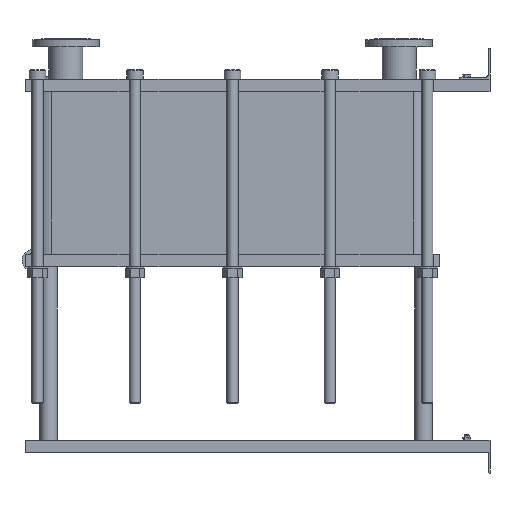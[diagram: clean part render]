
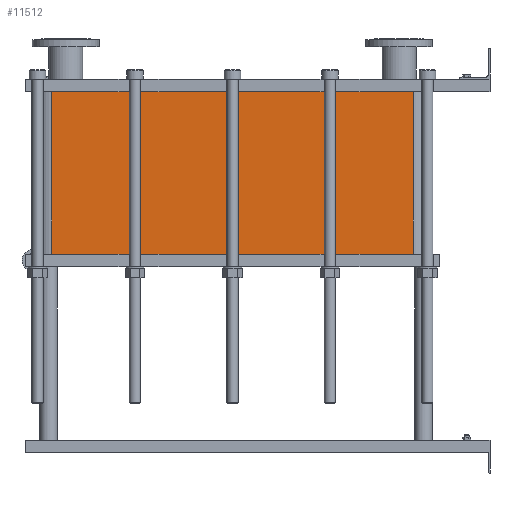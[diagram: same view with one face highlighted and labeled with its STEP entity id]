
A CAD part, left-side view. The second image highlights one B-rep face of the part: STEP entity #11512.
In plain terms, the highlighted planar face has unit normal (-1, 0, 0).
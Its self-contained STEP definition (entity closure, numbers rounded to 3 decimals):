
#1129=LINE('',#23232,#2102);
#1130=LINE('',#23236,#2103);
#1131=LINE('',#23238,#2104);
#1132=LINE('',#23239,#2105);
#2102=VECTOR('',#15887,10.);
#2103=VECTOR('',#15892,10.);
#2104=VECTOR('',#15893,10.);
#2105=VECTOR('',#15894,10.);
#3267=FACE_OUTER_BOUND('',#4093,.T.);
#4093=EDGE_LOOP('',(#10103,#10104,#10105,#10106));
#5642=VERTEX_POINT('',#23229);
#5643=VERTEX_POINT('',#23231);
#5644=VERTEX_POINT('',#23235);
#5645=VERTEX_POINT('',#23237);
#7159=EDGE_CURVE('',#5643,#5642,#1129,.T.);
#7161=EDGE_CURVE('',#5642,#5644,#1130,.T.);
#7162=EDGE_CURVE('',#5645,#5644,#1131,.T.);
#7163=EDGE_CURVE('',#5645,#5643,#1132,.T.);
#10103=ORIENTED_EDGE('',*,*,#7161,.T.);
#10104=ORIENTED_EDGE('',*,*,#7162,.F.);
#10105=ORIENTED_EDGE('',*,*,#7163,.T.);
#10106=ORIENTED_EDGE('',*,*,#7159,.T.);
#10857=PLANE('',#12751);
#11512=ADVANCED_FACE('',(#3267),#10857,.T.);
#12751=AXIS2_PLACEMENT_3D('',#23234,#15890,#15891);
#15887=DIRECTION('',(0.,0.,-1.));
#15890=DIRECTION('center_axis',(-1.,0.,0.));
#15891=DIRECTION('ref_axis',(0.,1.,0.));
#15892=DIRECTION('',(0.,-1.,0.));
#15893=DIRECTION('',(0.,0.,-1.));
#15894=DIRECTION('',(0.,1.,0.));
#23229=CARTESIAN_POINT('',(-200.,1414.,-524.4));
#23231=CARTESIAN_POINT('',(-200.,1414.,0.));
#23232=CARTESIAN_POINT('',(-200.,1414.,0.));
#23234=CARTESIAN_POINT('Origin',(-200.,248.,0.));
#23235=CARTESIAN_POINT('',(-200.,248.,-524.4));
#23236=CARTESIAN_POINT('',(-200.,539.5,-524.4));
#23237=CARTESIAN_POINT('',(-200.,248.,0.));
#23238=CARTESIAN_POINT('',(-200.,248.,0.));
#23239=CARTESIAN_POINT('',(-200.,248.,0.));
